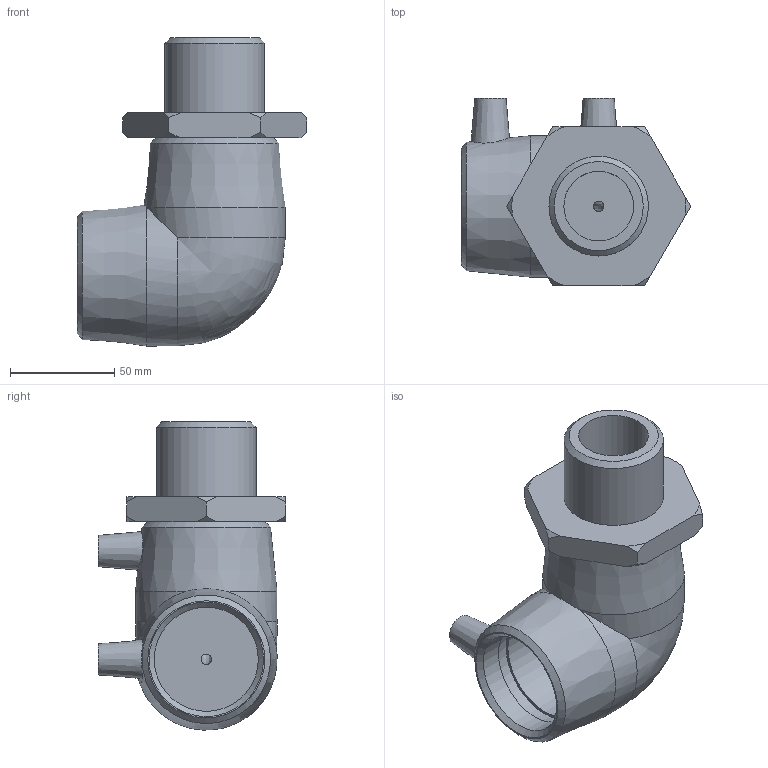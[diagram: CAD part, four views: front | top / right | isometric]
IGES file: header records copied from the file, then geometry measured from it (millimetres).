
Global section: file name: 497504050015.ipt; native system: Autodesk Inventor 2015; preprocessor: unknown; author: KIM; date: 20190421.151319; units: millimetre
Bounding box: 110.2 x 90.28 x 147.98 mm (x, y, z)
Volume: 411341.9 mm3; surface area: 78245.4 mm2
Topology: 2 solids, 2 shells, 60 faces, 146 edges, 98 vertices
Faces by surface type: plane 22, cone 19, revolution 12, cylinder 6, bspline 1
Full cylindrical faces by diameter (mm): 4 x2, 47.803 x1, 50 x1
